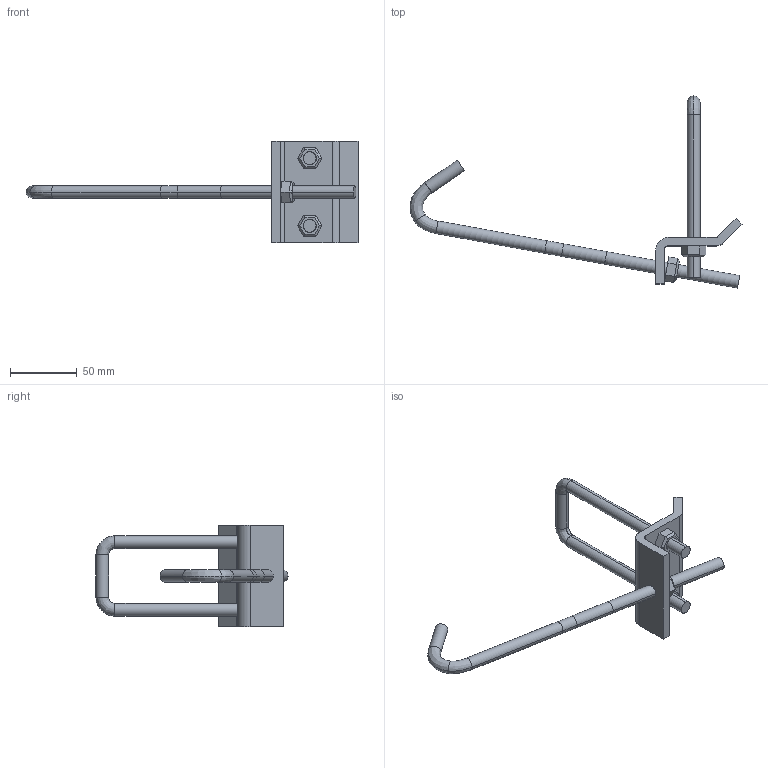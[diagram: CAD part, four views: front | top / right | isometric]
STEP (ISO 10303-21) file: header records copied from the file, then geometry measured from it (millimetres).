
FILE_DESCRIPTION(('TurboCAD Mac Pro'),'Build 980');
FILE_NAME('P2867A-9.stp',' ',(''),(''),'ACIS Interop','IMSI','TurboCAD Mac Pro BY IMSI, INCORPORATED');
FILE_SCHEMA(('automotive_design'));
Length unit declared in the file: inch
Products named in the file (6): 1; 2; 3; 4; 5; 6
Bounding box: 249.57 x 144.4 x 76.2 mm (x, y, z)
Volume: 91906.4 mm3; surface area: 37919.1 mm2
Topology: 6 solids, 6 shells, 100 faces, 226 edges, 138 vertices
Faces by surface type: plane 56, bspline 24, cylinder 20
Entity records: 5640 total; most frequent: CARTESIAN_POINT 1602, ORIENTED_EDGE 452, DIRECTION 382, STYLED_ITEM 304, PRESENTATION_STYLE_ASSIGNMENT 304, COLOUR_RGB 304, EDGE_CURVE 226, CURVE_STYLE 198
